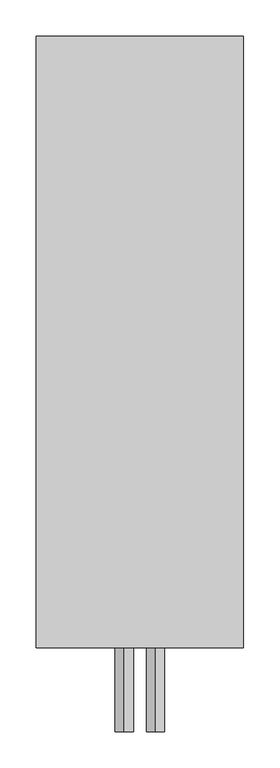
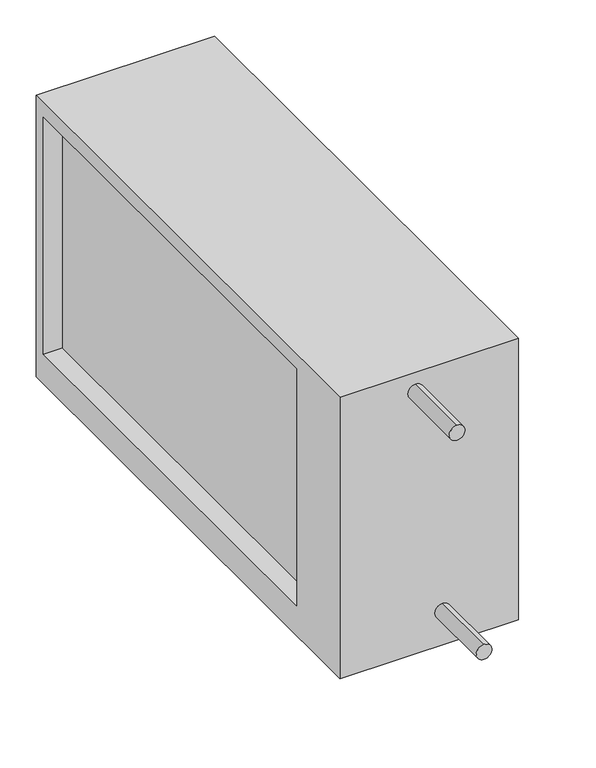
"""IFC4 building model written with IfcOpenShell, lengths in millimetres: proxy geometry, СВ_ВоздухоохладительВодяной_КанальныйПрямоугольный_200-1000_SPC-W : SPC-W-700x400-R."""

from ifc_helpers import new_model, si_unit, point, frame, frame_2d, origin, place, context, project, spatial, polyline, circle_curve, trimmed, segment, composite_curve, outline, extrude, source, transform, mapped, element, save


def mechanical_equipment_8d2328d6(model_context):
    return source(origin(), model_context, "Body", "SweptSolid", [
        extrude(outline(polyline([(-470.0, -250.0), (-470.0, 225.0), (370.0, 225.0), (370.0, -250.0), (-470.0, -250.0)]), holes=[polyline([(-350.0, 200.0), (-350.0, -200.0), (350.0, -200.0), (350.0, 200.0), (-350.0, 200.0)])]), frame((-142.5, 0.0, 0.0), z_axis=(1.0, 0.0, 0.0), x_axis=(0.0, 1.0, 0.0)), (0.0, 0.0, 1.0), 285.0),
        extrude(outline(composite_curve([segment(trimmed(circle_curve(frame_2d((-192.5, 21.5)), 12.5), [point((-180.0, 21.5))], [point((-205.0, 21.5))], False, "CARTESIAN"), True, "CONTINUOUS"), segment(trimmed(circle_curve(frame_2d((-192.5, 21.5)), 12.5), [point((-205.0, 21.5))], [point((-180.0, 21.5))], False, "CARTESIAN"), True, "CONTINUOUS")], self_intersect=False)), frame((0.0, -585.0, 0.0), z_axis=(0.0, 1.0, 0.0), x_axis=(0.0, 0.0, 1.0)), (0.0, 0.0, 1.0), 115.0),
        extrude(outline(composite_curve([segment(trimmed(circle_curve(frame_2d((192.5, -21.5)), 12.5), [point((205.0, -21.5))], [point((180.0, -21.5))], False, "CARTESIAN"), True, "CONTINUOUS"), segment(trimmed(circle_curve(frame_2d((192.5, -21.5)), 12.5), [point((180.0, -21.5))], [point((205.0, -21.5))], False, "CARTESIAN"), True, "CONTINUOUS")], self_intersect=False)), frame((0.0, -585.0, 0.0), z_axis=(0.0, 1.0, 0.0), x_axis=(0.0, 0.0, 1.0)), (0.0, 0.0, 1.0), 115.0),
        extrude(outline(composite_curve([segment(trimmed(circle_curve(frame_2d((0.0, -430.0)), 11.0), [point((-11.0, -430.0))], [point((11.0, -430.0))], False, "CARTESIAN"), True, "CONTINUOUS"), segment(trimmed(circle_curve(frame_2d((0.0, -430.0)), 11.0), [point((11.0, -430.0))], [point((-11.0, -430.0))], False, "CARTESIAN"), True, "CONTINUOUS")], self_intersect=False)), frame((0.0, 0.0, -270.0), z_axis=(0.0, 0.0, 1.0), x_axis=(1.0, 0.0, 0.0)), (0.0, 0.0, 1.0), 20.0),
        extrude(outline(polyline([(112.5, 350.0), (112.5, -350.0), (-112.5, -350.0), (-112.5, 350.0), (112.5, 350.0)])), frame((0.0, 0.0, -200.0), z_axis=(0.0, 0.0, 1.0), x_axis=(1.0, 0.0, 0.0)), (0.0, 0.0, 1.0), 400.0),
    ])


if __name__ == "__main__":
    model = new_model("IFC4")
    model_context = context("Model", 3, world=origin())
    ifc_project = project(units=[si_unit("LENGTHUNIT", "METRE", prefix="MILLI")], contexts=[model_context])
    site = spatial("IfcSite", under=ifc_project)
    building = spatial("IfcBuilding", under=site)
    placement = place(None, origin())
    mechanical_equipment_shape = mechanical_equipment_8d2328d6(model_context)
    element("IfcBuildingElementProxy", 1, Name="СВ_ВоздухоохладительВодяной_КанальныйПрямоугольный_200-1000_SPC-W : SPC-W-700x400-R", ObjectType="СВ_ВоздухоохладительВодяной_КанальныйПрямоугольный_200-1000_SPC-W : SPC-W-700x400-R", at=placement, inside=building, context=model_context, shape_type="MappedRepresentation", body=[
        mapped(mechanical_equipment_shape, transform((0.0, 0.0, 0.0), x_axis=(1.0, 0.0, 0.0), y_axis=(0.0, 1.0, 0.0), z_axis=(0.0, 0.0, 1.0))),
    ])
    save(model, "model.ifc")
